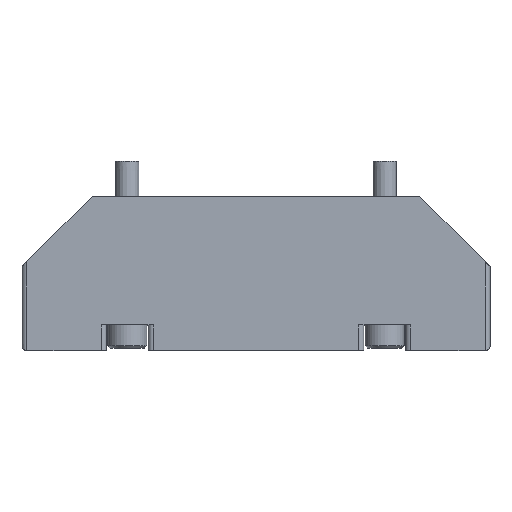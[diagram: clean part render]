
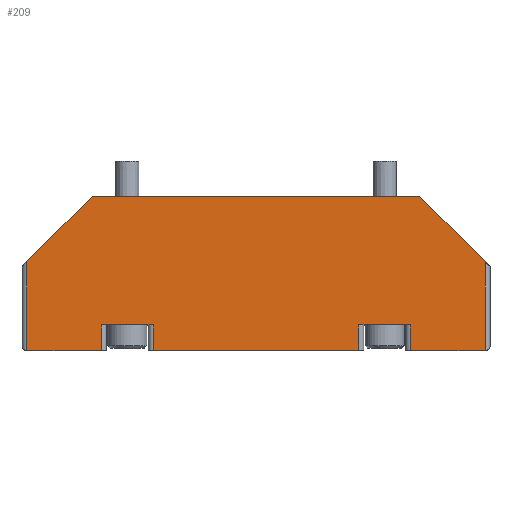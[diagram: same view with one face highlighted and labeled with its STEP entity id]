
A CAD part, top view. The second image highlights one B-rep face of the part: STEP entity #209.
In plain terms, the highlighted planar face has unit normal (0, 0, 1).
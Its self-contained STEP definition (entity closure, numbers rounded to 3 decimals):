
#209=ADVANCED_FACE('',(#504),#505,.F.);
#504=FACE_OUTER_BOUND('',#961,.T.);
#505=PLANE('',#962);
#961=EDGE_LOOP('',(#1417,#1418,#1419,#1420,#1421,#1422,#1423,#1424,#1425,#1426,#1427,#1428,#1429,#1430));
#962=AXIS2_PLACEMENT_3D('',#1431,#1432,#1433);
#1417=ORIENTED_EDGE('',*,*,#2346,.F.);
#1418=ORIENTED_EDGE('',*,*,#2347,.T.);
#1419=ORIENTED_EDGE('',*,*,#2348,.T.);
#1420=ORIENTED_EDGE('',*,*,#2349,.F.);
#1421=ORIENTED_EDGE('',*,*,#2350,.T.);
#1422=ORIENTED_EDGE('',*,*,#2351,.F.);
#1423=ORIENTED_EDGE('',*,*,#2352,.T.);
#1424=ORIENTED_EDGE('',*,*,#2353,.F.);
#1425=ORIENTED_EDGE('',*,*,#2354,.T.);
#1426=ORIENTED_EDGE('',*,*,#2355,.F.);
#1427=ORIENTED_EDGE('',*,*,#2356,.T.);
#1428=ORIENTED_EDGE('',*,*,#2357,.F.);
#1429=ORIENTED_EDGE('',*,*,#2358,.T.);
#1430=ORIENTED_EDGE('',*,*,#2359,.T.);
#1431=CARTESIAN_POINT('',(50.0,-33.0,19.5));
#1432=DIRECTION('',(0.0,0.0,-1.0));
#1433=DIRECTION('',(0.0,-1.0,0.0));
#2346=EDGE_CURVE('',#2705,#2706,#2707,.T.);
#2347=EDGE_CURVE('',#2705,#2708,#2709,.T.);
#2348=EDGE_CURVE('',#2708,#2710,#2711,.T.);
#2349=EDGE_CURVE('',#2712,#2710,#2713,.T.);
#2350=EDGE_CURVE('',#2712,#2714,#2715,.T.);
#2351=EDGE_CURVE('',#2716,#2714,#2717,.T.);
#2352=EDGE_CURVE('',#2716,#2718,#2719,.T.);
#2353=EDGE_CURVE('',#2720,#2718,#2721,.T.);
#2354=EDGE_CURVE('',#2720,#2722,#2723,.T.);
#2355=EDGE_CURVE('',#2724,#2722,#2725,.T.);
#2356=EDGE_CURVE('',#2724,#2726,#2727,.T.);
#2357=EDGE_CURVE('',#2728,#2726,#2729,.T.);
#2358=EDGE_CURVE('',#2728,#2730,#2731,.T.);
#2359=EDGE_CURVE('',#2730,#2706,#2732,.T.);
#2705=VERTEX_POINT('',#3382);
#2706=VERTEX_POINT('',#3383);
#2707=LINE('',#3384,#3385);
#2708=VERTEX_POINT('',#3386);
#2709=LINE('',#3387,#3388);
#2710=VERTEX_POINT('',#3389);
#2711=LINE('',#3390,#3391);
#2712=VERTEX_POINT('',#3392);
#2713=LINE('',#3393,#3394);
#2714=VERTEX_POINT('',#3395);
#2715=LINE('',#3396,#3397);
#2716=VERTEX_POINT('',#3398);
#2717=LINE('',#3399,#3400);
#2718=VERTEX_POINT('',#3401);
#2719=LINE('',#3402,#3403);
#2720=VERTEX_POINT('',#3404);
#2721=LINE('',#3405,#3406);
#2722=VERTEX_POINT('',#3407);
#2723=LINE('',#3408,#3409);
#2724=VERTEX_POINT('',#3410);
#2725=LINE('',#3411,#3412);
#2726=VERTEX_POINT('',#3413);
#2727=LINE('',#3414,#3415);
#2728=VERTEX_POINT('',#3416);
#2729=LINE('',#3417,#3418);
#2730=VERTEX_POINT('',#3419);
#2731=LINE('',#3420,#3421);
#2732=LINE('',#3422,#3423);
#3382=CARTESIAN_POINT('',(-35.0,0.0,19.5));
#3383=CARTESIAN_POINT('',(35.0,0.0,19.5));
#3384=CARTESIAN_POINT('',(-50.0,0.0,19.5));
#3385=VECTOR('',#4193,1.0);
#3386=CARTESIAN_POINT('',(-49.0,-14.0,19.5));
#3387=CARTESIAN_POINT('',(-35.0,0.0,19.5));
#3388=VECTOR('',#4194,1.0);
#3389=CARTESIAN_POINT('',(-49.0,-33.0,19.5));
#3390=CARTESIAN_POINT('',(-49.0,-33.0,19.5));
#3391=VECTOR('',#4195,1.0);
#3392=CARTESIAN_POINT('',(-33.0,-33.0,19.5));
#3393=CARTESIAN_POINT('',(50.0,-33.0,19.5));
#3394=VECTOR('',#4196,1.0);
#3395=CARTESIAN_POINT('',(-33.0,-27.5,19.5));
#3396=CARTESIAN_POINT('',(-33.0,-27.5,19.5));
#3397=VECTOR('',#4197,1.0);
#3398=CARTESIAN_POINT('',(-22.0,-27.5,19.5));
#3399=CARTESIAN_POINT('',(-23.0,-27.5,19.5));
#3400=VECTOR('',#4198,1.0);
#3401=CARTESIAN_POINT('',(-22.0,-33.0,19.5));
#3402=CARTESIAN_POINT('',(-22.0,-33.0,19.5));
#3403=VECTOR('',#4199,1.0);
#3404=CARTESIAN_POINT('',(22.0,-33.0,19.5));
#3405=CARTESIAN_POINT('',(50.0,-33.0,19.5));
#3406=VECTOR('',#4200,1.0);
#3407=CARTESIAN_POINT('',(22.0,-27.5,19.5));
#3408=CARTESIAN_POINT('',(22.0,-27.5,19.5));
#3409=VECTOR('',#4201,1.0);
#3410=CARTESIAN_POINT('',(33.0,-27.5,19.5));
#3411=CARTESIAN_POINT('',(32.0,-27.5,19.5));
#3412=VECTOR('',#4202,1.0);
#3413=CARTESIAN_POINT('',(33.0,-33.0,19.5));
#3414=CARTESIAN_POINT('',(33.0,-33.0,19.5));
#3415=VECTOR('',#4203,1.0);
#3416=CARTESIAN_POINT('',(49.0,-33.0,19.5));
#3417=CARTESIAN_POINT('',(50.0,-33.0,19.5));
#3418=VECTOR('',#4204,1.0);
#3419=CARTESIAN_POINT('',(49.0,-14.0,19.5));
#3420=CARTESIAN_POINT('',(49.0,-33.0,19.5));
#3421=VECTOR('',#4205,1.0);
#3422=CARTESIAN_POINT('',(50.0,-15.0,19.5));
#3423=VECTOR('',#4206,1.0);
#4193=DIRECTION('',(1.0,0.0,0.0));
#4194=DIRECTION('',(-0.707,-0.707,0.0));
#4195=DIRECTION('',(0.0,-1.0,0.0));
#4196=DIRECTION('',(-1.0,0.0,0.0));
#4197=DIRECTION('',(0.0,1.0,0.0));
#4198=DIRECTION('',(-1.0,0.0,0.0));
#4199=DIRECTION('',(0.0,-1.0,0.0));
#4200=DIRECTION('',(-1.0,0.0,0.0));
#4201=DIRECTION('',(0.0,1.0,0.0));
#4202=DIRECTION('',(-1.0,0.0,0.0));
#4203=DIRECTION('',(0.0,-1.0,0.0));
#4204=DIRECTION('',(-1.0,0.0,0.0));
#4205=DIRECTION('',(0.0,1.0,0.0));
#4206=DIRECTION('',(-0.707,0.707,0.0));
